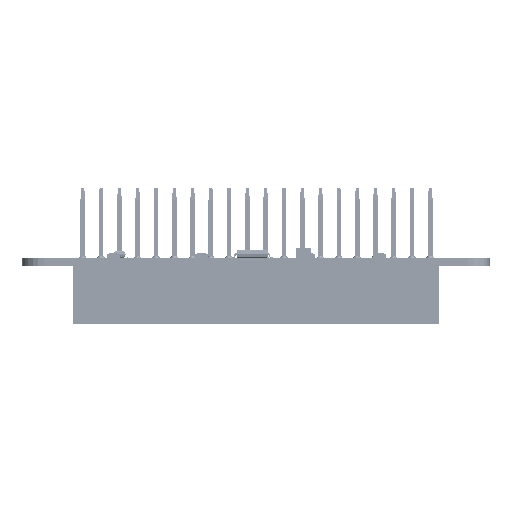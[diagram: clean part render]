
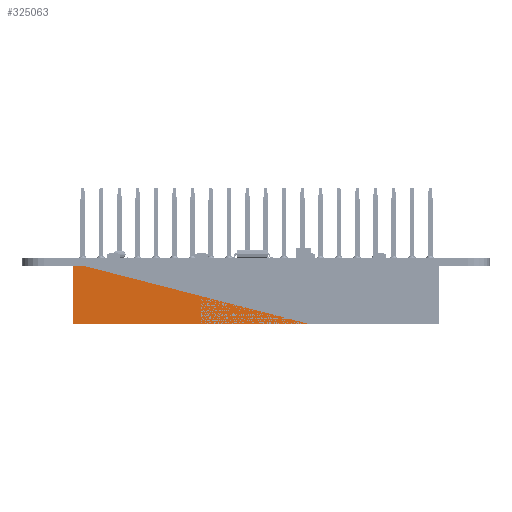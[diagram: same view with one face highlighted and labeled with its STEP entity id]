
A CAD part, front view. The second image highlights one B-rep face of the part: STEP entity #325063.
In plain terms, the highlighted planar face has unit normal (0, -1, 0) as drawn and (0, 0, -1) by its records, which use the part's own axes.
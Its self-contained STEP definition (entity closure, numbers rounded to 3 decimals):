
#25361=FACE_OUTER_BOUND('',#52636,.T.);
#52636=EDGE_LOOP('',(#264281,#264282,#264283));
#91400=LINE('',#525360,#131867);
#91409=LINE('',#525377,#131876);
#91410=LINE('',#525379,#131877);
#131867=VECTOR('',#439736,1.);
#131876=VECTOR('',#439753,1.);
#131877=VECTOR('',#439756,1.);
#149575=VERTEX_POINT('',#525353);
#149577=VERTEX_POINT('',#525359);
#149581=VERTEX_POINT('',#525375);
#187314=EDGE_CURVE('',#149575,#149577,#91400,.T.);
#187323=EDGE_CURVE('',#149581,#149575,#91409,.T.);
#187324=EDGE_CURVE('',#149577,#149581,#91410,.T.);
#264281=ORIENTED_EDGE('',*,*,#187314,.F.);
#264282=ORIENTED_EDGE('',*,*,#187323,.F.);
#264283=ORIENTED_EDGE('',*,*,#187324,.F.);
#298040=PLANE('',#352811);
#325063=ADVANCED_FACE('',(#25361),#298040,.F.);
#352811=AXIS2_PLACEMENT_3D('',#525378,#439754,#439755);
#439736=DIRECTION('',(0.968,0.249,0.));
#439753=DIRECTION('',(0.,-1.,0.));
#439754=DIRECTION('center_axis',(0.,0.,1.));
#439755=DIRECTION('ref_axis',(0.,1.,0.));
#439756=DIRECTION('',(-1.,0.,0.));
#525353=CARTESIAN_POINT('',(-34.335,10.648,-1.253));
#525359=CARTESIAN_POINT('',(-1.315,19.148,-1.253));
#525360=CARTESIAN_POINT('',(-34.335,10.648,-1.253));
#525375=CARTESIAN_POINT('',(-34.335,19.148,-1.253));
#525377=CARTESIAN_POINT('',(-34.335,19.148,-1.253));
#525378=CARTESIAN_POINT('Origin',(-1.315,19.148,-1.253));
#525379=CARTESIAN_POINT('',(-1.315,19.148,-1.253));
